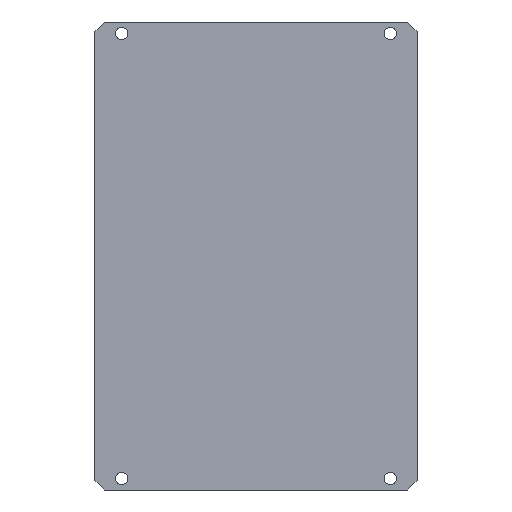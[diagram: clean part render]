
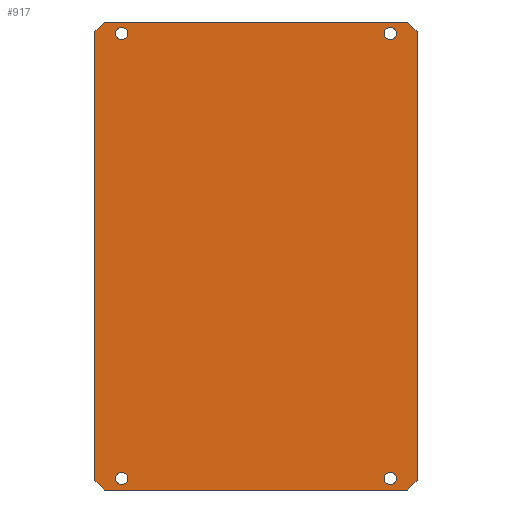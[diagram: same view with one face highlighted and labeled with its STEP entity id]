
A CAD part, front view. The second image highlights one B-rep face of the part: STEP entity #917.
In plain terms, the highlighted planar face has unit normal (0, -1, 0).
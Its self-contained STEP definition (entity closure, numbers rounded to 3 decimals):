
#31=FACE_BOUND('',#194,.T.);
#32=FACE_BOUND('',#195,.T.);
#33=FACE_BOUND('',#196,.T.);
#34=FACE_BOUND('',#197,.T.);
#63=PLANE('',#1036);
#118=FACE_OUTER_BOUND('',#193,.T.);
#193=EDGE_LOOP('',(#758,#759,#760,#761,#762,#763,#764,#765));
#194=EDGE_LOOP('',(#766));
#195=EDGE_LOOP('',(#767));
#196=EDGE_LOOP('',(#768));
#197=EDGE_LOOP('',(#769));
#252=LINE('',#1517,#324);
#254=LINE('',#1521,#326);
#261=LINE('',#1535,#333);
#262=LINE('',#1537,#334);
#263=LINE('',#1539,#335);
#264=LINE('',#1541,#336);
#265=LINE('',#1543,#337);
#266=LINE('',#1544,#338);
#324=VECTOR('',#1260,10.);
#326=VECTOR('',#1264,10.);
#333=VECTOR('',#1273,10.);
#334=VECTOR('',#1274,10.);
#335=VECTOR('',#1275,10.);
#336=VECTOR('',#1276,10.);
#337=VECTOR('',#1277,10.);
#338=VECTOR('',#1278,10.);
#402=CIRCLE('',#1037,1.6);
#403=CIRCLE('',#1038,1.6);
#404=CIRCLE('',#1039,1.6);
#405=CIRCLE('',#1040,1.6);
#460=VERTEX_POINT('',#1514);
#461=VERTEX_POINT('',#1516);
#462=VERTEX_POINT('',#1520);
#468=VERTEX_POINT('',#1534);
#469=VERTEX_POINT('',#1536);
#470=VERTEX_POINT('',#1538);
#471=VERTEX_POINT('',#1540);
#472=VERTEX_POINT('',#1542);
#473=VERTEX_POINT('',#1545);
#474=VERTEX_POINT('',#1547);
#475=VERTEX_POINT('',#1549);
#476=VERTEX_POINT('',#1551);
#564=EDGE_CURVE('',#460,#461,#252,.T.);
#566=EDGE_CURVE('',#462,#461,#254,.T.);
#573=EDGE_CURVE('',#460,#468,#261,.T.);
#574=EDGE_CURVE('',#469,#468,#262,.T.);
#575=EDGE_CURVE('',#469,#470,#263,.T.);
#576=EDGE_CURVE('',#471,#470,#264,.T.);
#577=EDGE_CURVE('',#471,#472,#265,.T.);
#578=EDGE_CURVE('',#462,#472,#266,.T.);
#579=EDGE_CURVE('',#473,#473,#402,.T.);
#580=EDGE_CURVE('',#474,#474,#403,.T.);
#581=EDGE_CURVE('',#475,#475,#404,.T.);
#582=EDGE_CURVE('',#476,#476,#405,.T.);
#758=ORIENTED_EDGE('',*,*,#564,.F.);
#759=ORIENTED_EDGE('',*,*,#573,.T.);
#760=ORIENTED_EDGE('',*,*,#574,.F.);
#761=ORIENTED_EDGE('',*,*,#575,.T.);
#762=ORIENTED_EDGE('',*,*,#576,.F.);
#763=ORIENTED_EDGE('',*,*,#577,.T.);
#764=ORIENTED_EDGE('',*,*,#578,.F.);
#765=ORIENTED_EDGE('',*,*,#566,.T.);
#766=ORIENTED_EDGE('',*,*,#579,.T.);
#767=ORIENTED_EDGE('',*,*,#580,.T.);
#768=ORIENTED_EDGE('',*,*,#581,.T.);
#769=ORIENTED_EDGE('',*,*,#582,.T.);
#917=ADVANCED_FACE('',(#118,#31,#32,#33,#34),#63,.F.);
#1036=AXIS2_PLACEMENT_3D('',#1533,#1271,#1272);
#1037=AXIS2_PLACEMENT_3D('',#1546,#1279,#1280);
#1038=AXIS2_PLACEMENT_3D('',#1548,#1281,#1282);
#1039=AXIS2_PLACEMENT_3D('',#1550,#1283,#1284);
#1040=AXIS2_PLACEMENT_3D('',#1552,#1285,#1286);
#1260=DIRECTION('',(-0.707,0.,0.707));
#1264=DIRECTION('',(0.,0.,-1.));
#1271=DIRECTION('center_axis',(0.,1.,0.));
#1272=DIRECTION('ref_axis',(0.,0.,1.));
#1273=DIRECTION('',(1.,0.,0.));
#1274=DIRECTION('',(-0.707,0.,-0.707));
#1275=DIRECTION('',(0.,0.,1.));
#1276=DIRECTION('',(0.707,0.,-0.707));
#1277=DIRECTION('',(-1.,0.,0.));
#1278=DIRECTION('',(0.707,0.,0.707));
#1279=DIRECTION('center_axis',(0.,1.,0.));
#1280=DIRECTION('ref_axis',(1.,0.,0.));
#1281=DIRECTION('center_axis',(0.,1.,0.));
#1282=DIRECTION('ref_axis',(1.,0.,0.));
#1283=DIRECTION('center_axis',(0.,1.,0.));
#1284=DIRECTION('ref_axis',(1.,0.,0.));
#1285=DIRECTION('center_axis',(0.,1.,0.));
#1286=DIRECTION('ref_axis',(1.,0.,0.));
#1514=CARTESIAN_POINT('',(-81.5,0.,-122.));
#1516=CARTESIAN_POINT('',(-84.,0.,-119.5));
#1517=CARTESIAN_POINT('',(-87.5,0.,-116.));
#1520=CARTESIAN_POINT('',(-84.,0.,-2.5));
#1521=CARTESIAN_POINT('',(-84.,0.,0.));
#1533=CARTESIAN_POINT('Origin',(-42.,0.,-61.));
#1534=CARTESIAN_POINT('',(-2.5,0.,-122.));
#1535=CARTESIAN_POINT('',(-84.,0.,-122.));
#1536=CARTESIAN_POINT('',(0.,0.,-119.5));
#1537=CARTESIAN_POINT('',(3.5,0.,-116.));
#1538=CARTESIAN_POINT('',(0.,0.,-2.5));
#1539=CARTESIAN_POINT('',(0.,0.,-122.));
#1540=CARTESIAN_POINT('',(-2.5,0.,0.));
#1541=CARTESIAN_POINT('',(3.5,0.,-6.));
#1542=CARTESIAN_POINT('',(-81.5,0.,0.));
#1543=CARTESIAN_POINT('',(0.,0.,0.));
#1544=CARTESIAN_POINT('',(-87.5,0.,-6.));
#1545=CARTESIAN_POINT('',(-78.6,0.,-119.));
#1546=CARTESIAN_POINT('Origin',(-77.,0.,-119.));
#1547=CARTESIAN_POINT('',(-8.6,0.,-119.));
#1548=CARTESIAN_POINT('Origin',(-7.,0.,-119.));
#1549=CARTESIAN_POINT('',(-78.6,0.,-3.));
#1550=CARTESIAN_POINT('Origin',(-77.,0.,-3.));
#1551=CARTESIAN_POINT('',(-8.6,0.,-3.));
#1552=CARTESIAN_POINT('Origin',(-7.,0.,-3.));
